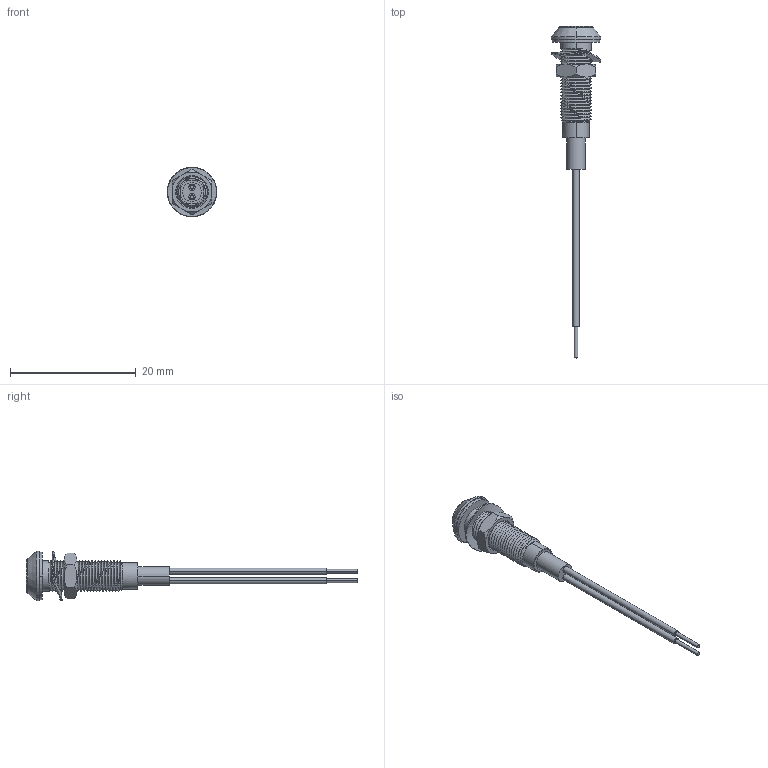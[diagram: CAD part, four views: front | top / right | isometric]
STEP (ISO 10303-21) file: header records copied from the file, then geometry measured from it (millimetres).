
FILE_DESCRIPTION (( 'STEP AP203' ), '1' );
FILE_NAME ('604.STEP', '2015-07-29T10:39:34', ( 'design 2' ), ( 'marl international ltd' ), 'SwSTEP 2.0', 'SolidWorks 2015', '' );
FILE_SCHEMA (( 'CONFIG_CONTROL_DESIGN' ));
Length unit declared in the file: millimetre
Products named in the file (7): wire connections for 604 series; COM2421; 5mm wavy washer; COM3575 - COM3579_COM3579; 604; COM3551; COM4316
Assembly tree (6 placements, depth 2):
  604
    COM3551
    COM4316
    wire connections for 604 series
    COM2421
    5mm wavy washer
    COM3575 - COM3579_COM3579
Bounding box: 7.9 x 52.8 x 7.9 mm (x, y, z)
Volume: 280.6 mm3; surface area: 1238.6 mm2
Topology: 6 solids, 6 shells, 235 faces, 532 edges, 330 vertices
Faces by surface type: cylinder 107, bspline 64, plane 39, cone 25
Entity records: 11677 total; most frequent: CARTESIAN_POINT 6236, ORIENTED_EDGE 1064, DIRECTION 902, EDGE_CURVE 532, AXIS2_PLACEMENT_3D 382, VERTEX_POINT 330, EDGE_LOOP 264, FACE_OUTER_BOUND 235
